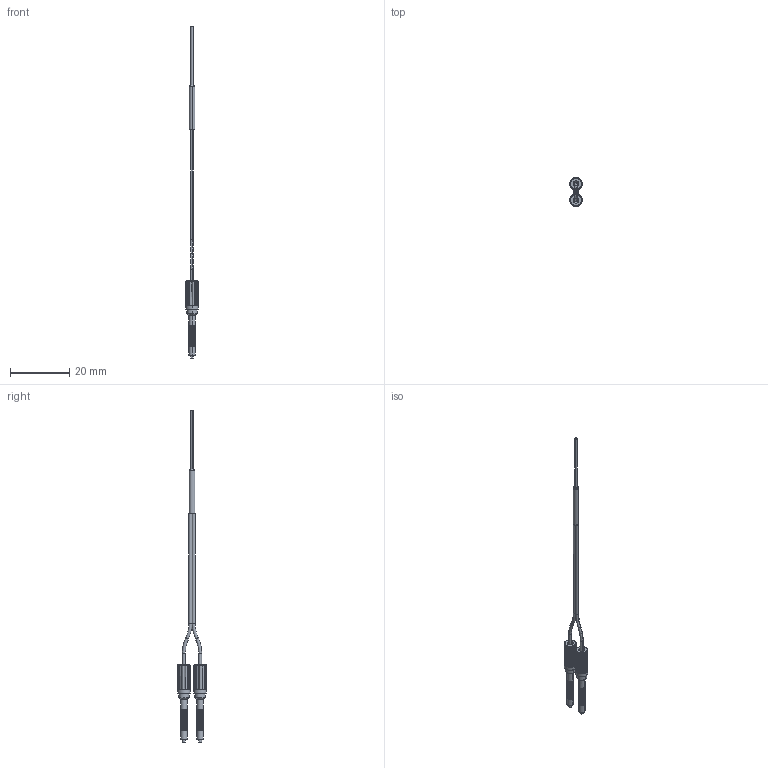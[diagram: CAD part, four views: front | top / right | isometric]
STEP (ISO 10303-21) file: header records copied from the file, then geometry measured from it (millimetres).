
FILE_DESCRIPTION((''),'2;1');
FILE_NAME('PD-E22-Q-S_ASM','2022-10-25T13:35:05',('Designer'),(''),'CREO PARAMETRIC BY PTC INC, 2022014','CREO PARAMETRIC BY PTC INC, 2022014','');
FILE_SCHEMA(('CONFIG_CONTROL_DESIGN'));
Length unit declared in the file: millimetre
Products named in the file (9): 2-12TOU_3; 9-5__2; 10XXX__1_1; 10XXX__1_2; 10XXX__1_ASM; JW22_10___1; 10XIAN_3MMHT__ASM_1_ASM; PD-E22-Q-S8_ASM; PD-E22-Q-S_ASM
Assembly tree (9 placements, depth 5):
  PD-E22-Q-S_ASM
    PD-E22-Q-S8_ASM
      2-12TOU_3
      9-5__2
      10XIAN_3MMHT__ASM_1_ASM
        10XXX__1_ASM
          10XXX__1_1
          10XXX__1_2
        JW22_10___1  x2
Bounding box: 4.2 x 9.7 x 112 mm (x, y, z)
Volume: 520.6 mm3; surface area: 1562.9 mm2
Topology: 6 solids, 6 shells, 772 faces, 2204 edges, 1448 vertices
Faces by surface type: cylinder 384, plane 216, torus 160, cone 12
Entity records: 14522 total; most frequent: CARTESIAN_POINT 3535, DIRECTION 2524, ORIENTED_EDGE 2272, AXIS2_PLACEMENT_3D 1158, EDGE_CURVE 1136, VERTEX_POINT 744, CIRCLE 728, EDGE_LOOP 412
